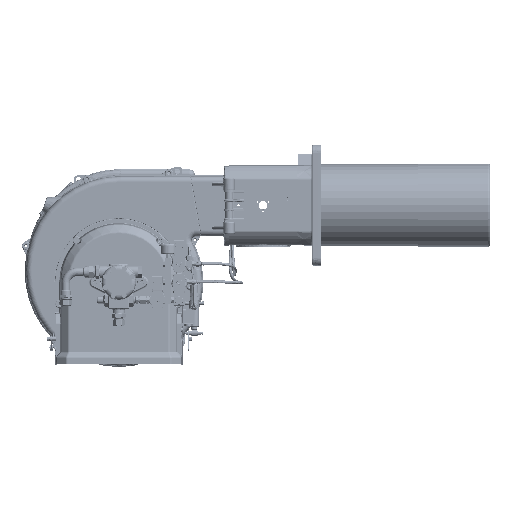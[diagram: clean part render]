
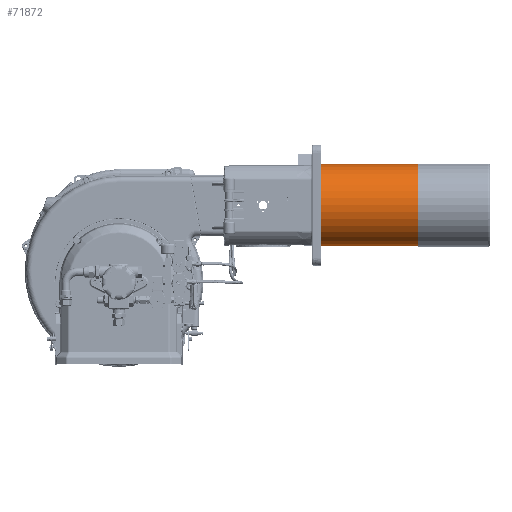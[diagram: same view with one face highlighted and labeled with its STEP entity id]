
A CAD part, top view. The second image highlights one B-rep face of the part: STEP entity #71872.
In plain terms, the highlighted cylindrical face has radius 109 mm (diameter 218 mm), a full revolution.
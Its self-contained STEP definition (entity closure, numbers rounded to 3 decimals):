
#71872=ADVANCED_FACE('',(#251096,#251098),#251100,.T.);
#251096=FACE_OUTER_BOUND('',#251097,.T.);
#251097=EDGE_LOOP('',(#385294));
#251098=FACE_OUTER_BOUND('',#251099,.T.);
#251099=EDGE_LOOP('',(#385295));
#251100=CYLINDRICAL_SURFACE('',#251101,109.);
#251101=AXIS2_PLACEMENT_3D('',#251102,#251103,#251104);
#251102=CARTESIAN_POINT('',(401.23,205.,-20.));
#251103=DIRECTION('',(-1.,0.,0.));
#251104=DIRECTION('',(0.,1.,0.));
#385294=ORIENTED_EDGE('',*,*,#441017,.F.);
#385295=ORIENTED_EDGE('',*,*,#441010,.F.);
#441010=EDGE_CURVE('',#489039,#489039,#489040,.T.);
#441017=EDGE_CURVE('',#489053,#489053,#489054,.F.);
#489039=VERTEX_POINT('',#686721);
#489040=CIRCLE('',#686722,109.);
#489053=VERTEX_POINT('',#686756);
#489054=CIRCLE('',#686757,109.);
#686721=CARTESIAN_POINT('',(528.5,314.,-20.));
#686722=AXIS2_PLACEMENT_3D('',#686723,#686724,#686725);
#686723=CARTESIAN_POINT('',(528.5,205.,-20.));
#686724=DIRECTION('',(-1.,0.,0.));
#686725=DIRECTION('',(0.,1.,0.));
#686756=CARTESIAN_POINT('',(796.1,314.,-20.));
#686757=AXIS2_PLACEMENT_3D('',#686758,#686759,#686760);
#686758=CARTESIAN_POINT('',(796.1,205.,-20.));
#686759=DIRECTION('',(-1.,0.,0.));
#686760=DIRECTION('',(0.,1.,0.));
